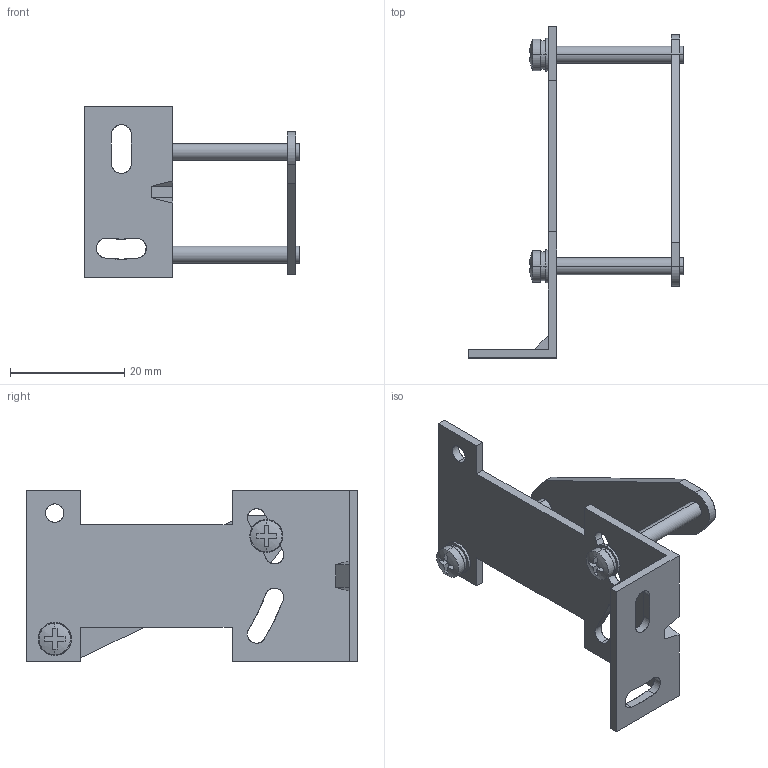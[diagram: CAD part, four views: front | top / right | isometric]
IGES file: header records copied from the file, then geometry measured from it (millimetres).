
Start section: SolidWorks IGES file using analytic representation for surfaces
Global section: file name: C:\catalog\ms-hg-01.IGS; native system: SolidWorks 2010; preprocessor: SolidWorks 2010; author: 90C1158; date: 141212.174117; units: millimetre
Bounding box: 37.7 x 58 x 30 mm (x, y, z)
Surface area: 5671.9 mm2 (no closed solid volume)
Topology: 0 solids, 0 shells, 115 faces, 1612 edges, 1612 vertices
Faces by surface type: bspline 70, revolution 45
